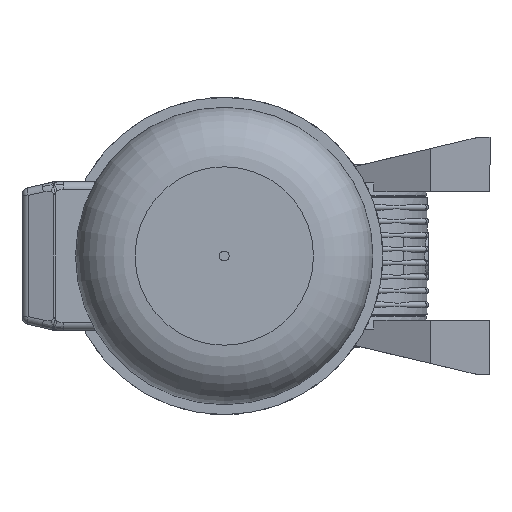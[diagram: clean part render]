
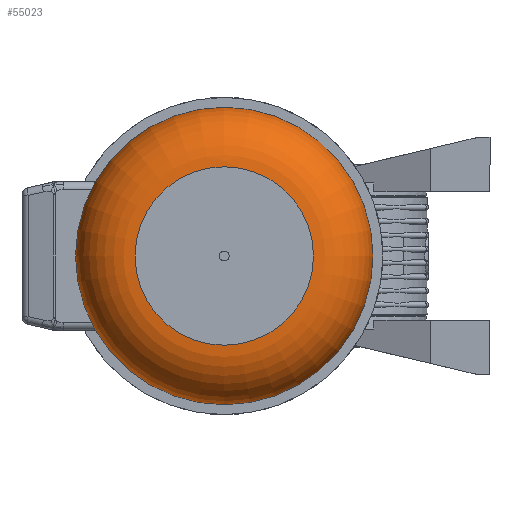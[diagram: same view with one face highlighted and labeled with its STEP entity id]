
A CAD part, left-side view. The second image highlights one B-rep face of the part: STEP entity #55023.
In plain terms, the highlighted toroidal (fillet/blend) face has major radius 45 mm and minor radius 30 mm.
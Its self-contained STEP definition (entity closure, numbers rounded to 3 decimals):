
#54996=CARTESIAN_POINT('',(314.0,0.0,0.0));
#54997=DIRECTION('',(1.0,0.0,0.0));
#54998=DIRECTION('',(0.0,0.0,-1.0));
#54999=AXIS2_PLACEMENT_3D('',#54996,#54997,#54998);
#55000=TOROIDAL_SURFACE('',#54999,45.,30.0);
#55001=CARTESIAN_POINT('',(344.0,45.,0.0));
#55002=VERTEX_POINT('',#55001);
#55003=CARTESIAN_POINT('',(344.0,0.0,0.0));
#55004=DIRECTION('',(1.0,0.0,0.0));
#55005=DIRECTION('',(0.0,1.0,0.0));
#55006=AXIS2_PLACEMENT_3D('',#55003,#55004,#55005);
#55007=CIRCLE('',#55006,45.);
#55008=EDGE_CURVE('',#55002,#55002,#55007,.T.);
#55009=ORIENTED_EDGE('',*,*,#55008,.F.);
#55010=EDGE_LOOP('',(#55009));
#55011=FACE_OUTER_BOUND('',#55010,.T.);
#55012=CARTESIAN_POINT('',(314.0,75.,0.0));
#55013=VERTEX_POINT('',#55012);
#55014=CARTESIAN_POINT('',(314.0,0.0,0.0));
#55015=DIRECTION('',(1.0,0.0,0.0));
#55016=DIRECTION('',(0.0,1.0,0.0));
#55017=AXIS2_PLACEMENT_3D('',#55014,#55015,#55016);
#55018=CIRCLE('',#55017,75.);
#55019=EDGE_CURVE('',#55013,#55013,#55018,.T.);
#55020=ORIENTED_EDGE('',*,*,#55019,.T.);
#55021=EDGE_LOOP('',(#55020));
#55022=FACE_BOUND('',#55021,.T.);
#55023=ADVANCED_FACE('',(#55011,#55022),#55000,.T.);
